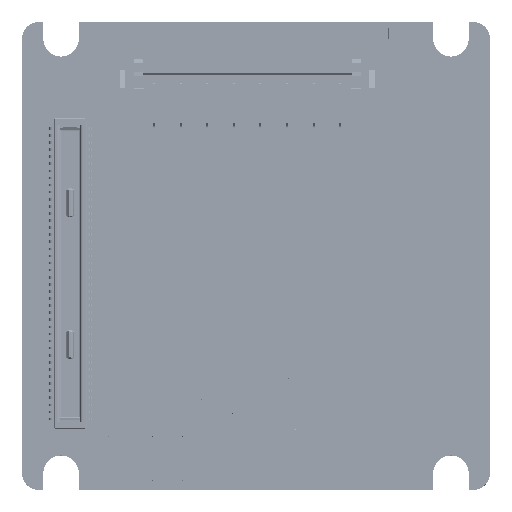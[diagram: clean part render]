
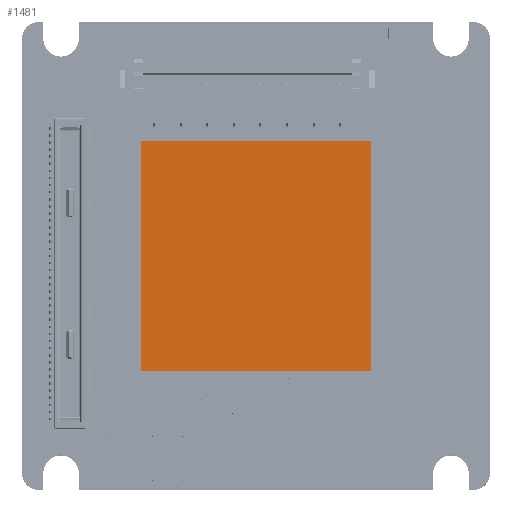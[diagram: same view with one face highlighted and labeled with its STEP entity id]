
A CAD part, top view. The second image highlights one B-rep face of the part: STEP entity #1481.
In plain terms, the highlighted planar face has unit normal (0, 0, 1).
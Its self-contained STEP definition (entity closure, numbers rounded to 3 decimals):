
#1481 = ADVANCED_FACE ( 'NONE', ( #352241 ), #359435, .F. ) ;
#29618 = LINE ( 'NONE', #411256, #56066 ) ;
#31766 = DIRECTION ( 'NONE',  ( 0., 1., 0. ) ) ;
#51974 = VERTEX_POINT ( 'NONE', #675724 ) ;
#52950 = EDGE_CURVE ( 'NONE', #220672, #102774, #671349, .T. ) ;
#56066 = VECTOR ( 'NONE', #245932, 1000. ) ;
#58720 = VECTOR ( 'NONE', #31766, 1000. ) ;
#102774 = VERTEX_POINT ( 'NONE', #531292 ) ;
#143167 = CARTESIAN_POINT ( 'NONE',  ( 0., 0., 6.162 ) ) ;
#194515 = DIRECTION ( 'NONE',  ( 0., -1., 0. ) ) ;
#198961 = VECTOR ( 'NONE', #329851, 1000. ) ;
#211308 = LINE ( 'NONE', #269792, #58720 ) ;
#220672 = VERTEX_POINT ( 'NONE', #470321 ) ;
#240485 = LINE ( 'NONE', #581618, #257517 ) ;
#244021 = DIRECTION ( 'NONE',  ( -1., 0., 0. ) ) ;
#245932 = DIRECTION ( 'NONE',  ( 0., -1., 0. ) ) ;
#255664 = ORIENTED_EDGE ( 'NONE', *, *, #52950, .F. ) ;
#257517 = VECTOR ( 'NONE', #244021, 1000. ) ;
#259306 = VERTEX_POINT ( 'NONE', #383117 ) ;
#269792 = CARTESIAN_POINT ( 'NONE',  ( -6.5, -6.5, 6.162 ) ) ;
#281396 = EDGE_LOOP ( 'NONE', ( #707173, #502666, #255664, #411135 ) ) ;
#329851 = DIRECTION ( 'NONE',  ( 1., 0., 0. ) ) ;
#352241 = FACE_OUTER_BOUND ( 'NONE', #281396, .T. ) ;
#359435 = PLANE ( 'NONE',  #619121 ) ;
#366733 = DIRECTION ( 'NONE',  ( 0., 0., -1. ) ) ;
#383117 = CARTESIAN_POINT ( 'NONE',  ( 6.5, -6.5, 6.162 ) ) ;
#411135 = ORIENTED_EDGE ( 'NONE', *, *, #686649, .F. ) ;
#411256 = CARTESIAN_POINT ( 'NONE',  ( 6.5, 6.5, 6.162 ) ) ;
#443877 = CARTESIAN_POINT ( 'NONE',  ( -6.5, 6.5, 6.162 ) ) ;
#470321 = CARTESIAN_POINT ( 'NONE',  ( -6.5, 6.5, 6.162 ) ) ;
#502666 = ORIENTED_EDGE ( 'NONE', *, *, #670405, .F. ) ;
#531292 = CARTESIAN_POINT ( 'NONE',  ( 6.5, 6.5, 6.162 ) ) ;
#581618 = CARTESIAN_POINT ( 'NONE',  ( 6.5, -6.5, 6.162 ) ) ;
#619121 = AXIS2_PLACEMENT_3D ( 'NONE', #143167, #366733, #194515 ) ;
#670405 = EDGE_CURVE ( 'NONE', #102774, #259306, #29618, .T. ) ;
#671349 = LINE ( 'NONE', #443877, #198961 ) ;
#675724 = CARTESIAN_POINT ( 'NONE',  ( -6.5, -6.5, 6.162 ) ) ;
#686649 = EDGE_CURVE ( 'NONE', #51974, #220672, #211308, .T. ) ;
#706791 = EDGE_CURVE ( 'NONE', #259306, #51974, #240485, .T. ) ;
#707173 = ORIENTED_EDGE ( 'NONE', *, *, #706791, .F. ) ;
